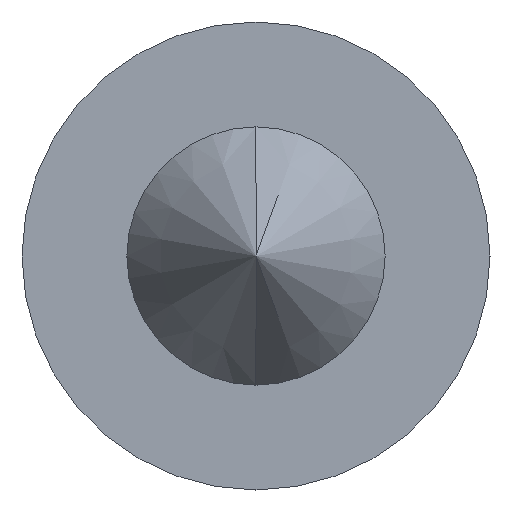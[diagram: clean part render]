
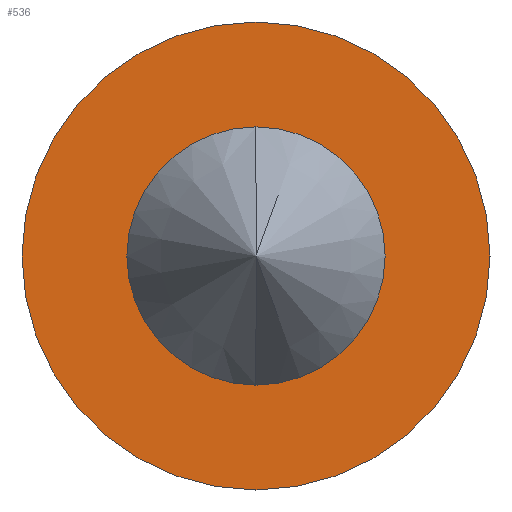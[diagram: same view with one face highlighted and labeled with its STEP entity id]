
A CAD part, left-side view. The second image highlights one B-rep face of the part: STEP entity #536.
In plain terms, the highlighted planar face has unit normal (-1, 0, 0).
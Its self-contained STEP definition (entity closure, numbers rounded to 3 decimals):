
#6 = FACE_BOUND ( 'NONE', #4196, .T. ) ;
#14 = CARTESIAN_POINT ( 'NONE',  ( 6.355, 0., 0. ) ) ;
#87 = DIRECTION ( 'NONE',  ( -1., 0., 0. ) ) ;
#155 = EDGE_LOOP ( 'NONE', ( #1693, #1305 ) ) ;
#226 = EDGE_CURVE ( 'NONE', #2263, #915, #2830, .T. ) ;
#402 = EDGE_CURVE ( 'NONE', #2656, #3789, #2128, .T. ) ;
#536 = ADVANCED_FACE ( 'NONE', ( #6, #4421 ), #3962, .F. ) ;
#599 = AXIS2_PLACEMENT_3D ( 'NONE', #3888, #1507, #3562 ) ;
#723 = CARTESIAN_POINT ( 'NONE',  ( 6.355, 0., 2.9 ) ) ;
#902 = DIRECTION ( 'NONE',  ( 0., 0., 1. ) ) ;
#912 = DIRECTION ( 'NONE',  ( -1., 0., 0. ) ) ;
#914 = CARTESIAN_POINT ( 'NONE',  ( 6.355, 0., 0. ) ) ;
#915 = VERTEX_POINT ( 'NONE', #2986 ) ;
#1039 = EDGE_CURVE ( 'NONE', #3789, #2656, #1879, .T. ) ;
#1040 = EDGE_CURVE ( 'NONE', #915, #2263, #2038, .T. ) ;
#1252 = DIRECTION ( 'NONE',  ( 0., 0., 1. ) ) ;
#1305 = ORIENTED_EDGE ( 'NONE', *, *, #1039, .T. ) ;
#1317 = CARTESIAN_POINT ( 'NONE',  ( 6.355, 2.9, 0. ) ) ;
#1507 = DIRECTION ( 'NONE',  ( -1., 0., 0. ) ) ;
#1514 = CARTESIAN_POINT ( 'NONE',  ( 6.355, 0., -2.9 ) ) ;
#1693 = ORIENTED_EDGE ( 'NONE', *, *, #402, .T. ) ;
#1782 = DIRECTION ( 'NONE',  ( -1., 0., 0. ) ) ;
#1879 = CIRCLE ( 'NONE', #2385, 2.9 ) ;
#2038 = CIRCLE ( 'NONE', #599, 1.3 ) ;
#2128 = CIRCLE ( 'NONE', #4154, 2.9 ) ;
#2167 = ORIENTED_EDGE ( 'NONE', *, *, #226, .F. ) ;
#2217 = DIRECTION ( 'NONE',  ( 0., 0., 1. ) ) ;
#2263 = VERTEX_POINT ( 'NONE', #3229 ) ;
#2385 = AXIS2_PLACEMENT_3D ( 'NONE', #2557, #87, #2217 ) ;
#2557 = CARTESIAN_POINT ( 'NONE',  ( 6.355, 0., 0. ) ) ;
#2656 = VERTEX_POINT ( 'NONE', #723 ) ;
#2810 = DIRECTION ( 'NONE',  ( 1., 0., 0. ) ) ;
#2830 = CIRCLE ( 'NONE', #3535, 1.3 ) ;
#2986 = CARTESIAN_POINT ( 'NONE',  ( 6.355, 0., -1.3 ) ) ;
#3229 = CARTESIAN_POINT ( 'NONE',  ( 6.355, 0., 1.3 ) ) ;
#3535 = AXIS2_PLACEMENT_3D ( 'NONE', #914, #912, #902 ) ;
#3562 = DIRECTION ( 'NONE',  ( 0., 0., 1. ) ) ;
#3789 = VERTEX_POINT ( 'NONE', #1514 ) ;
#3886 = AXIS2_PLACEMENT_3D ( 'NONE', #1317, #2810, #4344 ) ;
#3888 = CARTESIAN_POINT ( 'NONE',  ( 6.355, 0., 0. ) ) ;
#3962 = PLANE ( 'NONE',  #3886 ) ;
#4154 = AXIS2_PLACEMENT_3D ( 'NONE', #14, #1782, #1252 ) ;
#4196 = EDGE_LOOP ( 'NONE', ( #2167, #4376 ) ) ;
#4344 = DIRECTION ( 'NONE',  ( 0., 0., -1. ) ) ;
#4376 = ORIENTED_EDGE ( 'NONE', *, *, #1040, .F. ) ;
#4421 = FACE_OUTER_BOUND ( 'NONE', #155, .T. ) ;
